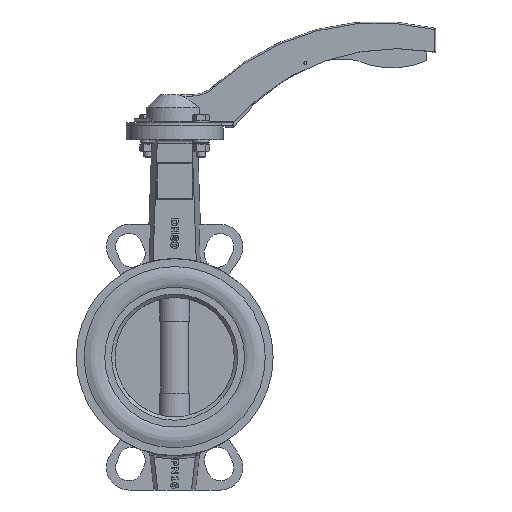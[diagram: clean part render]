
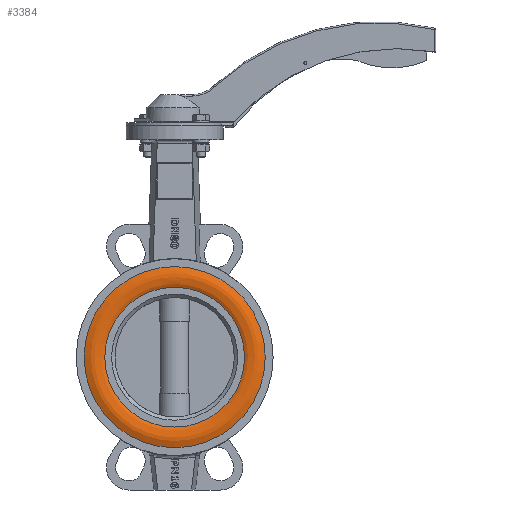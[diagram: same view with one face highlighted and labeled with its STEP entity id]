
A CAD part, left-side view. The second image highlights one B-rep face of the part: STEP entity #3384.
In plain terms, the highlighted toroidal (fillet/blend) face has major radius 53.76 mm and minor radius 14.389 mm.
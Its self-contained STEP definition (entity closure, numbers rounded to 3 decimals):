
#3384=ADVANCED_FACE('',(#6526,#6528),#6530,.T.);
#6526=FACE_OUTER_BOUND('',#6527,.T.);
#6527=EDGE_LOOP('',(#10348));
#6528=FACE_OUTER_BOUND('',#6529,.T.);
#6529=EDGE_LOOP('',(#10349));
#6530=TOROIDAL_SURFACE('',#6531,53.76,14.388);
#6531=AXIS2_PLACEMENT_3D('',#6532,#6533,#6534);
#6532=CARTESIAN_POINT('',(-10.185,0.,0.));
#6533=DIRECTION('',(-1.,0.,0.));
#6534=DIRECTION('',(0.,0.,1.));
#10348=ORIENTED_EDGE('',*,*,#11960,.T.);
#10349=ORIENTED_EDGE('',*,*,#11956,.F.);
#11956=EDGE_CURVE('',#13936,#13936,#13937,.T.);
#11960=EDGE_CURVE('',#13944,#13944,#13945,.T.);
#13936=VERTEX_POINT('',#20009);
#13937=CIRCLE('',#20010,46.84);
#13944=VERTEX_POINT('',#20029);
#13945=CIRCLE('',#20030,60.68);
#20009=CARTESIAN_POINT('',(-22.8,0.,46.84));
#20010=AXIS2_PLACEMENT_3D('',#20011,#20012,#20013);
#20011=CARTESIAN_POINT('',(-22.8,0.,0.));
#20012=DIRECTION('',(-1.,0.,0.));
#20013=DIRECTION('',(0.,0.,1.));
#20029=CARTESIAN_POINT('',(-22.8,0.,60.68));
#20030=AXIS2_PLACEMENT_3D('',#20031,#20032,#20033);
#20031=CARTESIAN_POINT('',(-22.8,0.,0.));
#20032=DIRECTION('',(-1.,0.,0.));
#20033=DIRECTION('',(0.,0.,1.));
